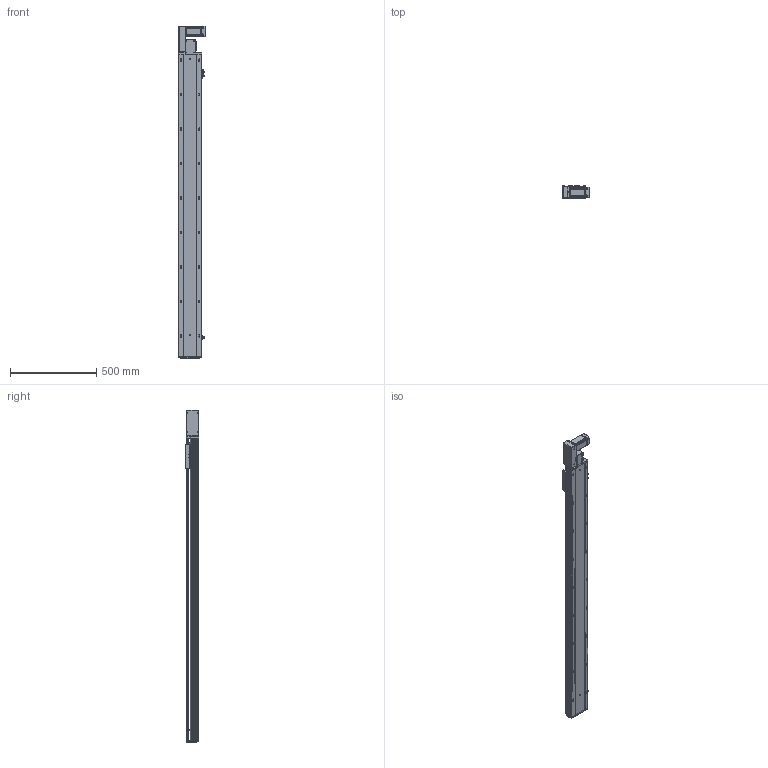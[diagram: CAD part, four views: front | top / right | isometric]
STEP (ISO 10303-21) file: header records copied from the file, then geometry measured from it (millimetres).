
FILE_DESCRIPTION (( 'STEP AP203' ), '1' );
FILE_NAME ('RY140-T-300-LK.SLDASM_1500.step', '2021-03-01T06:36:17', ( '盈信电脑' ), ( '东莞市道滘镇水果街19号' ), 'SwSTEP 2.0', 'SolidWorks 2012', '' );
FILE_SCHEMA (( 'CONFIG_CONTROL_DESIGN' ));
Length unit declared in the file: millimetre
Products named in the file (18): RY120-T肮祭湍揤踡輸2; RY120-T肮祭湍揤踡輸1; RY140-T翋肮祭謫盓傅釱; RY120外置感应片(140共用）; 覜茼ん672; RY140-T-300-DL倰第奻裔啣_1500; RY140綴裔啣; RY140-T-300-DL倰第菁釱_1500; RY140肮祭謫臏賑輸; 15; 侂狟400W侜督萇儂; RY140-T萇儂欶; RY120-T蹟翐M4; 滅袉蝶18-10; RY120-T主同步轮轴承压盖; RY140-T萇儂假蚾啣; RY140-T-300-LK.SLDASM_1500; RY140-T翋肮謫裔啣
Assembly tree (23 placements, depth 3):
  RY140-T-300-LK.SLDASM_1500
    RY140-T-300-DL倰第菁釱_1500
    RY140肮祭謫臏賑輸
    RY140-T-300-DL倰第奻裔啣_1500
    RY140綴裔啣
    覜茼ん672  x3
    RY120外置感应片(140共用）
    RY120-T肮祭湍揤踡輸2
    RY120-T肮祭湍揤踡輸1
    RY140-T翋肮祭謫盓傅釱
    RY140-T萇儂假蚾啣
    侂狟400W侜督萇儂
      15
    RY120-T主同步轮轴承压盖
    RY120-T蹟翐M4  x4
    RY140-T萇儂欶
    滅袉蝶18-10  x2
    RY140-T翋肮謫裔啣
Bounding box: 157 x 78 x 1926.5 mm (x, y, z)
Volume: 5193560.3 mm3; surface area: 2012517.7 mm2
Topology: 22 solids, 22 shells, 2767 faces, 7577 edges, 4838 vertices
Faces by surface type: plane 1381, cylinder 1032, cone 254, bspline 100
Entity records: 87373 total; most frequent: CARTESIAN_POINT 21229, ORIENTED_EDGE 13570, DIRECTION 12961, EDGE_CURVE 6785, VERTEX_POINT 4437, AXIS2_PLACEMENT_3D 4328, VECTOR 4305, LINE 4305
